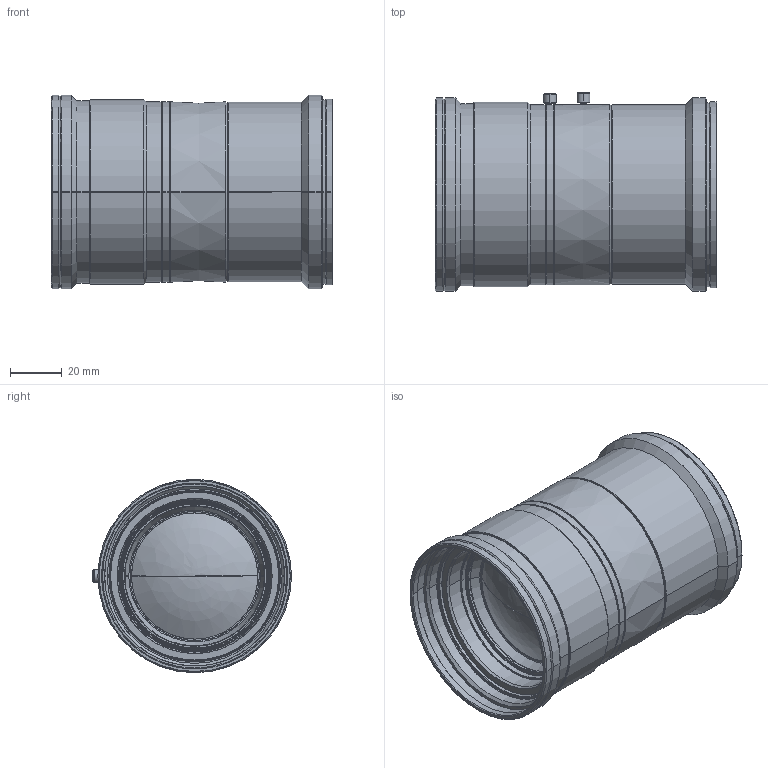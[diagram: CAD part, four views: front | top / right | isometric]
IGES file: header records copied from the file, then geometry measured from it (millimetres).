
Start section: SolidWorks IGES file using analytic representation for surfaces
Bounding box: 109.2 x 77.05 x 75 mm (x, y, z)
Surface area: 56473.9 mm2 (no closed solid volume)
Topology: 0 solids, 0 shells, 218 faces, 4480 edges, 4478 vertices
Faces by surface type: revolution 186, bspline 32
